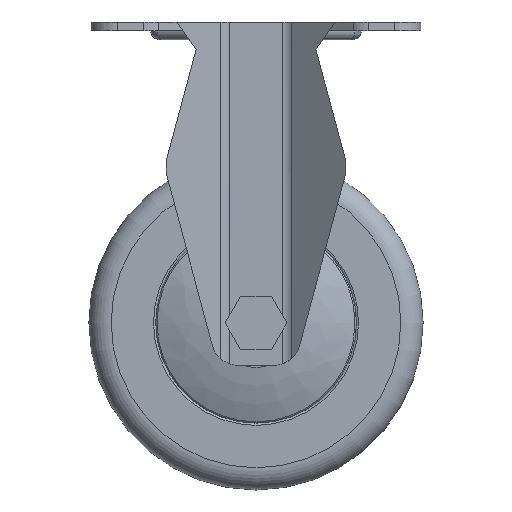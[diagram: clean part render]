
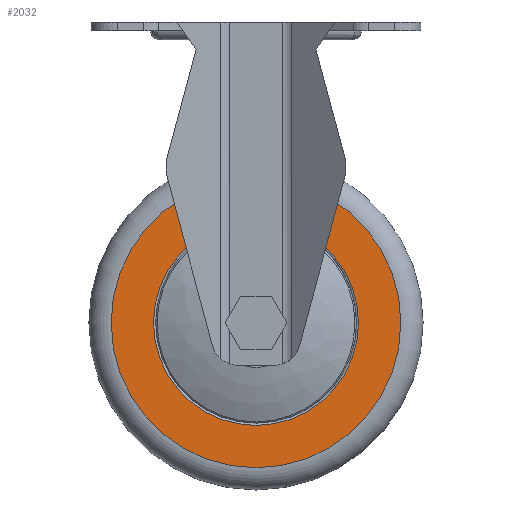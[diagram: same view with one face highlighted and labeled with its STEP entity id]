
A CAD part, front view. The second image highlights one B-rep face of the part: STEP entity #2032.
In plain terms, the highlighted planar face has unit normal (0, -1, 0).
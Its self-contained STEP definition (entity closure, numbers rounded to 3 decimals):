
#598=PLANE('',#6392);
#2032=ADVANCED_FACE('',(#2186,#2187),#598,.F.);
#2186=FACE_BOUND('',#2562,.T.);
#2187=FACE_BOUND('',#2563,.T.);
#2562=EDGE_LOOP('',(#4284));
#2563=EDGE_LOOP('',(#4285));
#4284=ORIENTED_EDGE('',*,*,#5734,.T.);
#4285=ORIENTED_EDGE('',*,*,#5735,.T.);
#4873=VERTEX_POINT('',#10452);
#4874=VERTEX_POINT('',#10454);
#5734=EDGE_CURVE('',#4873,#4873,#5893,.T.);
#5735=EDGE_CURVE('',#4874,#4874,#5894,.T.);
#5893=CIRCLE('',#6390,23.);
#5894=CIRCLE('',#6391,32.5);
#6390=AXIS2_PLACEMENT_3D('',#10451,#7823,#7824);
#6391=AXIS2_PLACEMENT_3D('',#10453,#7825,#7826);
#6392=AXIS2_PLACEMENT_3D('',#10455,#7827,#7828);
#7823=DIRECTION('',(0.,1.,0.));
#7824=DIRECTION('',(0.,0.,1.));
#7825=DIRECTION('',(0.,-1.,0.));
#7826=DIRECTION('',(0.,0.,1.));
#7827=DIRECTION('',(0.,1.,0.));
#7828=DIRECTION('',(0.,0.,1.));
#10451=CARTESIAN_POINT('',(0.,-12.5,-67.5));
#10452=CARTESIAN_POINT('',(0.,-12.5,-44.5));
#10453=CARTESIAN_POINT('',(0.,-12.5,-67.5));
#10454=CARTESIAN_POINT('',(0.,-12.5,-35.));
#10455=CARTESIAN_POINT('',(0.,-12.5,-67.5));
